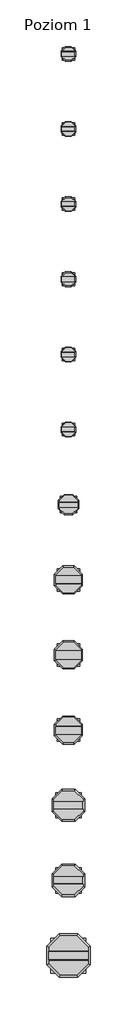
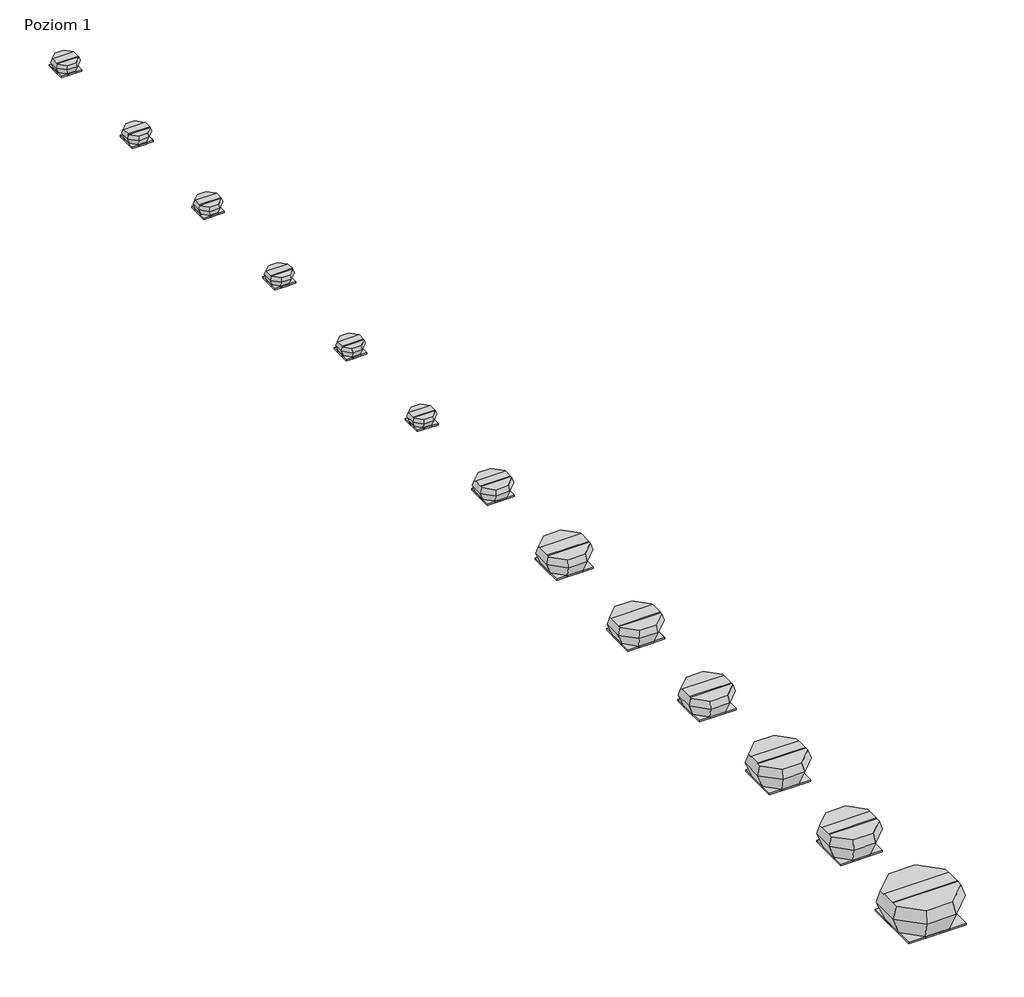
# One storey: 13 duct fittings, 13 unitary equipment elements.
"""IFC4 building model written with IfcOpenShell, lengths in millimetres."""

from ifc_helpers import new_model, si_unit, origin, place, context, project, spatial, transform, mapped, element, save
from components import duct_fitting_180_5dd8c60e, duct_fitting_250_9d40ecca, duct_fitting_400_42e1e227, duct_fitting_560_c8fad201, unitary_equipment_1b8540bf, unitary_equipment_718ca758, unitary_equipment_41c086c7, unitary_equipment_795b335b, unitary_equipment_f09a72a4, unitary_equipment_63716bbd, unitary_equipment_f340779e, unitary_equipment_9f07731e, unitary_equipment_39375190

model = new_model("IFC4")

# Units and contexts
model_context = context("Model", 3, world=origin())
ifc_project = project(units=[si_unit("LENGTHUNIT", "METRE", prefix="MILLI")], contexts=[model_context])

# Site, building, storey
site = spatial("IfcSite", under=ifc_project)
building = spatial("IfcBuilding", under=site)
storey = spatial("IfcBuildingStorey", under=building, Name="Poziom 1", Elevation=0.0)

# Duct fittings
placement = place(None, origin())
duct_fitting_180_shape = duct_fitting_180_5dd8c60e(model_context)
element("IfcDuctFitting", 1, ObjectType="VE-Zagnieżdżone-Akcesorium-ParaForma-Harmann-DAF-Króciec_Przyłączeniowy : 180", at=placement, inside=storey, context=model_context, shape_type="MappedRepresentation", body=[
    mapped(duct_fitting_180_shape, transform((4582.5, 5000.0, 0.0), x_axis=(1.0, 0.0, 0.0), y_axis=(0.0, 1.0, 0.0), z_axis=(0.0, 0.0, 1.0))),
])
element("IfcDuctFitting", 2, ObjectType="VE-Zagnieżdżone-Akcesorium-ParaForma-Harmann-DAF-Króciec_Przyłączeniowy : 180", at=placement, inside=storey, context=model_context, shape_type="MappedRepresentation", body=[
    mapped(duct_fitting_180_shape, transform((4582.5, 7000.0, 0.0), x_axis=(1.0, 0.0, 0.0), y_axis=(0.0, 1.0, 0.0), z_axis=(0.0, 0.0, 1.0))),
])
element("IfcDuctFitting", 3, ObjectType="VE-Zagnieżdżone-Akcesorium-ParaForma-Harmann-DAF-Króciec_Przyłączeniowy : 180", at=placement, inside=storey, context=model_context, shape_type="MappedRepresentation", body=[
    mapped(duct_fitting_180_shape, transform((4582.5, 1000.0, 0.0), x_axis=(1.0, 0.0, 0.0), y_axis=(0.0, 1.0, 0.0), z_axis=(0.0, 0.0, 1.0))),
])
element("IfcDuctFitting", 4, ObjectType="VE-Zagnieżdżone-Akcesorium-ParaForma-Harmann-DAF-Króciec_Przyłączeniowy : 180", at=placement, inside=storey, context=model_context, shape_type="MappedRepresentation", body=[
    mapped(duct_fitting_180_shape, transform((4582.5, 3000.0, 0.0), x_axis=(1.0, 0.0, 0.0), y_axis=(0.0, 1.0, 0.0), z_axis=(0.0, 0.0, 1.0))),
])
element("IfcDuctFitting", 5, ObjectType="VE-Zagnieżdżone-Akcesorium-ParaForma-Harmann-DAF-Króciec_Przyłączeniowy : 180", at=placement, inside=storey, context=model_context, shape_type="MappedRepresentation", body=[
    mapped(duct_fitting_180_shape, transform((4582.5, 9000.0, 0.0), x_axis=(1.0, 0.0, 0.0), y_axis=(0.0, 1.0, 0.0), z_axis=(0.0, 0.0, 1.0))),
])
element("IfcDuctFitting", 6, ObjectType="VE-Zagnieżdżone-Akcesorium-ParaForma-Harmann-DAF-Króciec_Przyłączeniowy : 180", at=placement, inside=storey, context=model_context, shape_type="MappedRepresentation", body=[
    mapped(duct_fitting_180_shape, transform((4582.5, 11000.0, 0.0), x_axis=(1.0, 0.0, 0.0), y_axis=(0.0, 1.0, 0.0), z_axis=(0.0, 0.0, 1.0))),
])
duct_fitting_250_shape = duct_fitting_250_9d40ecca(model_context)
element("IfcDuctFitting", 7, ObjectType="VE-Zagnieżdżone-Akcesorium-ParaForma-Harmann-DAF-Króciec_Przyłączeniowy : 250", at=placement, inside=storey, context=model_context, shape_type="MappedRepresentation", body=[
    mapped(duct_fitting_250_shape, transform((4582.5, -3000.0, 0.0), x_axis=(1.0, 0.0, 0.0), y_axis=(0.0, 1.0, 0.0), z_axis=(0.0, 0.0, 1.0))),
])
element("IfcDuctFitting", 8, ObjectType="VE-Zagnieżdżone-Akcesorium-ParaForma-Harmann-DAF-Króciec_Przyłączeniowy : 250", at=placement, inside=storey, context=model_context, shape_type="MappedRepresentation", body=[
    mapped(duct_fitting_250_shape, transform((4582.5, -1000.0, 0.0), x_axis=(1.0, 0.0, 0.0), y_axis=(0.0, 1.0, 0.0), z_axis=(0.0, 0.0, 1.0))),
])
duct_fitting_400_shape = duct_fitting_400_42e1e227(model_context)
element("IfcDuctFitting", 9, ObjectType="VE-Zagnieżdżone-Akcesorium-ParaForma-Harmann-DAF-Króciec_Przyłączeniowy : 400", at=placement, inside=storey, context=model_context, shape_type="MappedRepresentation", body=[
    mapped(duct_fitting_400_shape, transform((4582.5, -7000.0, 0.0), x_axis=(1.0, 0.0, 0.0), y_axis=(0.0, 1.0, 0.0), z_axis=(0.0, 0.0, 1.0))),
])
element("IfcDuctFitting", 10, ObjectType="VE-Zagnieżdżone-Akcesorium-ParaForma-Harmann-DAF-Króciec_Przyłączeniowy : 400", at=placement, inside=storey, context=model_context, shape_type="MappedRepresentation", body=[
    mapped(duct_fitting_400_shape, transform((4582.5, -5000.0, 0.0), x_axis=(1.0, 0.0, 0.0), y_axis=(0.0, 1.0, 0.0), z_axis=(0.0, 0.0, 1.0))),
])
element("IfcDuctFitting", 11, ObjectType="VE-Zagnieżdżone-Akcesorium-ParaForma-Harmann-DAF-Króciec_Przyłączeniowy : 400", at=placement, inside=storey, context=model_context, shape_type="MappedRepresentation", body=[
    mapped(duct_fitting_400_shape, transform((4582.5, -9000.0, 0.0), x_axis=(1.0, 0.0, 0.0), y_axis=(0.0, 1.0, 0.0), z_axis=(0.0, 0.0, 1.0))),
])
element("IfcDuctFitting", 12, ObjectType="VE-Zagnieżdżone-Akcesorium-ParaForma-Harmann-DAF-Króciec_Przyłączeniowy : 400", at=placement, inside=storey, context=model_context, shape_type="MappedRepresentation", body=[
    mapped(duct_fitting_400_shape, transform((4582.5, -11000.0, 0.0), x_axis=(1.0, 0.0, 0.0), y_axis=(0.0, 1.0, 0.0), z_axis=(0.0, 0.0, 1.0))),
])
duct_fitting_560_shape = duct_fitting_560_c8fad201(model_context)
element("IfcDuctFitting", 13, ObjectType="VE-Zagnieżdżone-Akcesorium-ParaForma-Harmann-DAF-Króciec_Przyłączeniowy : 560", at=placement, inside=storey, context=model_context, shape_type="MappedRepresentation", body=[
    mapped(duct_fitting_560_shape, transform((4582.5, -13000.0, 0.0), x_axis=(1.0, 0.0, 0.0), y_axis=(0.0, 1.0, 0.0), z_axis=(0.0, 0.0, 1.0))),
])

# Unitary equipment
unitary_equipment_shape = unitary_equipment_1b8540bf(model_context)
element("IfcUnitaryEquipment", 14, ObjectType="VE-Wentylator-ParaForma-Harmann-VIVER-Wywiewny : 2-190/450S", at=placement, inside=storey, context=model_context, shape_type="MappedRepresentation", body=[
    mapped(unitary_equipment_shape, transform((4582.5, 11000.0, 0.0), x_axis=(1.0, 0.0, 0.0), y_axis=(0.0, 1.0, 0.0), z_axis=(0.0, 0.0, 1.0))),
])
unitary_equipment_2_shape = unitary_equipment_718ca758(model_context)
element("IfcUnitaryEquipment", 15, ObjectType="VE-Wentylator-ParaForma-Harmann-VIVER-Wywiewny : 4-190/250S", at=placement, inside=storey, context=model_context, shape_type="MappedRepresentation", body=[
    mapped(unitary_equipment_2_shape, transform((4582.5, 5000.0, 0.0), x_axis=(1.0, 0.0, 0.0), y_axis=(0.0, 1.0, 0.0), z_axis=(0.0, 0.0, 1.0))),
])
unitary_equipment_3_shape = unitary_equipment_41c086c7(model_context)
element("IfcUnitaryEquipment", 16, ObjectType="VE-Wentylator-ParaForma-Harmann-VIVER-Wywiewny : 2-220/800S", at=placement, inside=storey, context=model_context, shape_type="MappedRepresentation", body=[
    mapped(unitary_equipment_3_shape, transform((4582.5, 9000.0, 0.0), x_axis=(1.0, 0.0, 0.0), y_axis=(0.0, 1.0, 0.0), z_axis=(0.0, 0.0, 1.0))),
])
element("IfcUnitaryEquipment", 17, ObjectType="VE-Wentylator-ParaForma-Harmann-VIVER-Wywiewny : 4-220/400S", at=placement, inside=storey, context=model_context, shape_type="MappedRepresentation", body=[
    mapped(unitary_equipment_3_shape, transform((4582.5, 3000.0, 0.0), x_axis=(1.0, 0.0, 0.0), y_axis=(0.0, 1.0, 0.0), z_axis=(0.0, 0.0, 1.0))),
])
unitary_equipment_4_shape = unitary_equipment_795b335b(model_context)
element("IfcUnitaryEquipment", 18, ObjectType="VE-Wentylator-ParaForma-Harmann-VIVER-Wywiewny : 2-225/900S", at=placement, inside=storey, context=model_context, shape_type="MappedRepresentation", body=[
    mapped(unitary_equipment_4_shape, transform((4582.5, 7000.0, 0.0), x_axis=(1.0, 0.0, 0.0), y_axis=(0.0, 1.0, 0.0), z_axis=(0.0, 0.0, 1.0))),
])
element("IfcUnitaryEquipment", 19, ObjectType="VE-Wentylator-ParaForma-Harmann-VIVER-Wywiewny : 4-250/600S", at=placement, inside=storey, context=model_context, shape_type="MappedRepresentation", body=[
    mapped(unitary_equipment_2_shape, transform((4582.5, 1000.0, 0.0), x_axis=(1.0, 0.0, 0.0), y_axis=(0.0, 1.0, 0.0), z_axis=(0.0, 0.0, 1.0))),
])
unitary_equipment_5_shape = unitary_equipment_f09a72a4(model_context)
element("IfcUnitaryEquipment", 20, ObjectType="VE-Wentylator-ParaForma-Harmann-VIVER-Wywiewny : 4-280/1100S", at=placement, inside=storey, context=model_context, shape_type="MappedRepresentation", body=[
    mapped(unitary_equipment_5_shape, transform((4582.5, -1000.0, 0.0), x_axis=(1.0, 0.0, 0.0), y_axis=(0.0, 1.0, 0.0), z_axis=(0.0, 0.0, 1.0))),
])
unitary_equipment_6_shape = unitary_equipment_63716bbd(model_context)
element("IfcUnitaryEquipment", 21, ObjectType="VE-Wentylator-ParaForma-Harmann-VIVER-Wywiewny : 4-315/1600S", at=placement, inside=storey, context=model_context, shape_type="MappedRepresentation", body=[
    mapped(unitary_equipment_6_shape, transform((4582.5, -3000.0, 0.0), x_axis=(1.0, 0.0, 0.0), y_axis=(0.0, 1.0, 0.0), z_axis=(0.0, 0.0, 1.0))),
])
unitary_equipment_7_shape = unitary_equipment_f340779e(model_context)
element("IfcUnitaryEquipment", 22, ObjectType="VE-Wentylator-ParaForma-Harmann-VIVER-Wywiewny : 4-355/2700S", at=placement, inside=storey, context=model_context, shape_type="MappedRepresentation", body=[
    mapped(unitary_equipment_7_shape, transform((4582.5, -5000.0, 0.0), x_axis=(1.0, 0.0, 0.0), y_axis=(0.0, 1.0, 0.0), z_axis=(0.0, 0.0, 1.0))),
])
element("IfcUnitaryEquipment", 23, ObjectType="VE-Wentylator-ParaForma-Harmann-VIVER-Wywiewny : 4-400/3700S", at=placement, inside=storey, context=model_context, shape_type="MappedRepresentation", body=[
    mapped(unitary_equipment_7_shape, transform((4582.5, -7000.0, 0.0), x_axis=(1.0, 0.0, 0.0), y_axis=(0.0, 1.0, 0.0), z_axis=(0.0, 0.0, 1.0))),
])
unitary_equipment_8_shape = unitary_equipment_9f07731e(model_context)
element("IfcUnitaryEquipment", 24, ObjectType="VE-Wentylator-ParaForma-Harmann-VIVER-Wywiewny : 4-450/5000T", at=placement, inside=storey, context=model_context, shape_type="MappedRepresentation", body=[
    mapped(unitary_equipment_8_shape, transform((4582.5, -9000.0, 0.0), x_axis=(1.0, 0.0, 0.0), y_axis=(0.0, 1.0, 0.0), z_axis=(0.0, 0.0, 1.0))),
])
element("IfcUnitaryEquipment", 25, ObjectType="VE-Wentylator-ParaForma-Harmann-VIVER-Wywiewny : 4-500/7600T", at=placement, inside=storey, context=model_context, shape_type="MappedRepresentation", body=[
    mapped(unitary_equipment_8_shape, transform((4582.5, -11000.0, 0.0), x_axis=(1.0, 0.0, 0.0), y_axis=(0.0, 1.0, 0.0), z_axis=(0.0, 0.0, 1.0))),
])
unitary_equipment_9_shape = unitary_equipment_39375190(model_context)
element("IfcUnitaryEquipment", 26, ObjectType="VE-Wentylator-ParaForma-Harmann-VIVER-Wywiewny : 4-560/10900T", at=placement, inside=storey, context=model_context, shape_type="MappedRepresentation", body=[
    mapped(unitary_equipment_9_shape, transform((4582.5, -13000.0, 0.0), x_axis=(1.0, 0.0, 0.0), y_axis=(0.0, 1.0, 0.0), z_axis=(0.0, 0.0, 1.0))),
])

save(model, "model.ifc")
